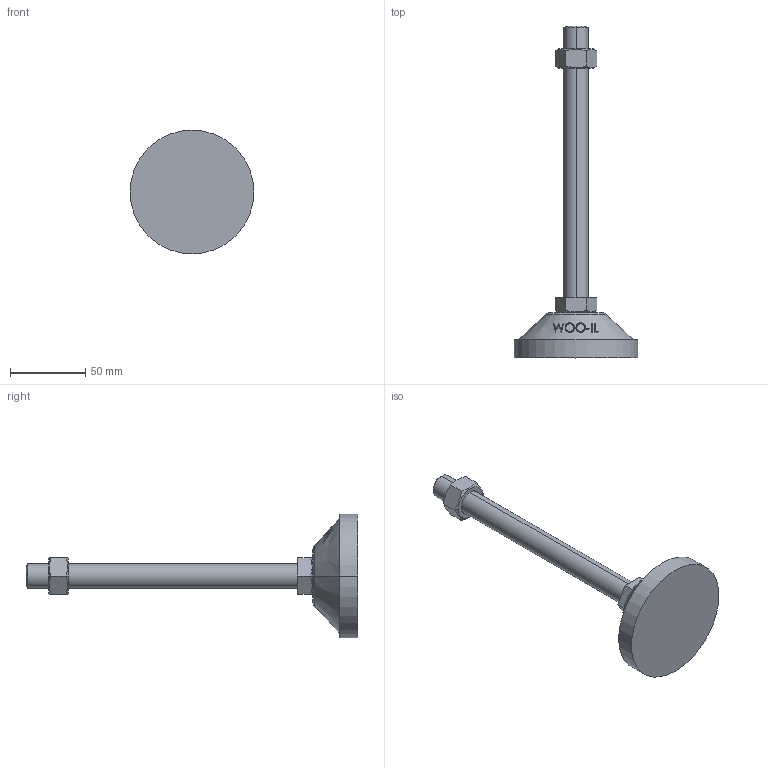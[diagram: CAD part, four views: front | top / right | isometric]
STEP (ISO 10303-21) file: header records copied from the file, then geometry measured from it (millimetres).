
FILE_DESCRIPTION (( 'STEP AP214' ), '1' );
FILE_NAME ('RL82-M16-180.step', '2021-01-06T08:17:52', ( '' ), ( '' ), 'SwSTEP 2.0', 'SolidWorks 2019', '' );
FILE_SCHEMA (( 'AUTOMOTIVE_DESIGN' ));
Length unit declared in the file: millimetre
Products named in the file (1): RL82-M16-180
Bounding box: 82 x 220 x 82 mm (x, y, z)
Volume: 155782.4 mm3; surface area: 27920.9 mm2
Topology: 3 solids, 3 shells, 93 faces, 217 edges, 140 vertices
Faces by surface type: plane 47, cone 22, bspline 16, cylinder 6, torus 2
Entity records: 4223 total; most frequent: CARTESIAN_POINT 2191, ORIENTED_EDGE 434, DIRECTION 349, EDGE_CURVE 217, VERTEX_POINT 140, AXIS2_PLACEMENT_3D 134, EDGE_LOOP 105, FACE_OUTER_BOUND 93
